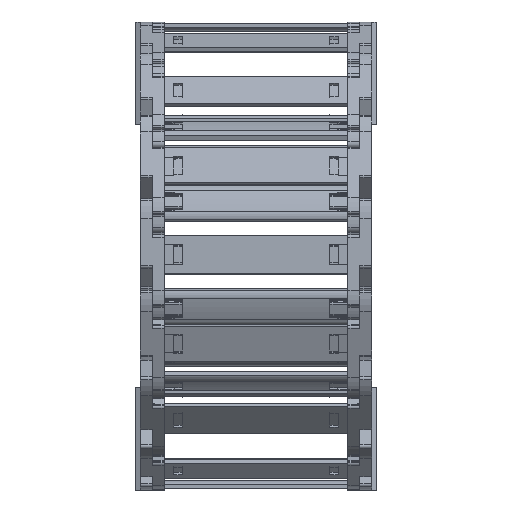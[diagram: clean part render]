
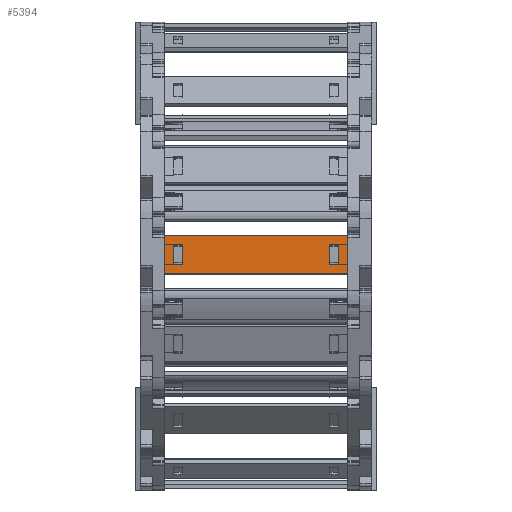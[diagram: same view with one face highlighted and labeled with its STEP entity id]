
A CAD part, left-side view. The second image highlights one B-rep face of the part: STEP entity #5394.
In plain terms, the highlighted planar face has unit normal (-1, 0, 0.007) as drawn and (0, 1, 0) by its records, which use the part's own axes.
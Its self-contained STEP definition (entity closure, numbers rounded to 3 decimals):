
#4814=DIRECTION('',(0.,0.,1.));
#4815=VECTOR('',#4814,15.8);
#4816=CARTESIAN_POINT('',(62.24,1.5,-7.9));
#4817=LINE('',#4816,#4815);
#4818=DIRECTION('',(-1.,0.,0.));
#4819=VECTOR('',#4818,77.);
#4820=CARTESIAN_POINT('',(62.24,1.5,7.9));
#4821=LINE('',#4820,#4819);
#4822=DIRECTION('',(0.,0.,-1.));
#4823=VECTOR('',#4822,15.8);
#4824=CARTESIAN_POINT('',(-14.76,1.5,7.9));
#4825=LINE('',#4824,#4823);
#4826=DIRECTION('',(1.,0.,0.));
#4827=VECTOR('',#4826,3.648);
#4828=CARTESIAN_POINT('',(54.622,1.5,4.075));
#4829=LINE('',#4828,#4827);
#4830=DIRECTION('',(0.,0.,-1.));
#4831=VECTOR('',#4830,8.15);
#4832=CARTESIAN_POINT('',(58.27,1.5,4.075));
#4833=LINE('',#4832,#4831);
#4834=DIRECTION('',(-1.,0.,0.));
#4835=VECTOR('',#4834,3.648);
#4836=CARTESIAN_POINT('',(58.27,1.5,-4.075));
#4837=LINE('',#4836,#4835);
#4838=DIRECTION('',(0.,0.,-1.));
#4839=VECTOR('',#4838,8.15);
#4840=CARTESIAN_POINT('',(-7.142,1.5,4.075));
#4841=LINE('',#4840,#4839);
#4842=DIRECTION('',(-1.,0.,0.));
#4843=VECTOR('',#4842,3.648);
#4844=CARTESIAN_POINT('',(-7.142,1.5,-4.075));
#4845=LINE('',#4844,#4843);
#4846=DIRECTION('',(0.,0.,1.));
#4847=VECTOR('',#4846,8.15);
#4848=CARTESIAN_POINT('',(-10.79,1.5,-4.075));
#4849=LINE('',#4848,#4847);
#4850=DIRECTION('',(1.,0.,0.));
#4851=VECTOR('',#4850,3.648);
#4852=CARTESIAN_POINT('',(-10.79,1.5,4.075));
#4853=LINE('',#4852,#4851);
#4858=DIRECTION('',(-1.,0.,0.));
#4859=VECTOR('',#4858,77.);
#4860=CARTESIAN_POINT('',(62.24,1.5,-7.9));
#4861=LINE('',#4860,#4859);
#4979=DIRECTION('',(0.,0.,-1.));
#4980=VECTOR('',#4979,8.15);
#4981=CARTESIAN_POINT('',(54.622,1.5,4.075));
#4982=LINE('',#4981,#4980);
#5164=CARTESIAN_POINT('',(58.27,1.5,4.075));
#5165=VERTEX_POINT('',#5164);
#5166=CARTESIAN_POINT('',(54.622,1.5,4.075));
#5167=VERTEX_POINT('',#5166);
#5208=CARTESIAN_POINT('',(54.622,1.5,-4.075));
#5209=VERTEX_POINT('',#5208);
#5210=CARTESIAN_POINT('',(58.27,1.5,-4.075));
#5211=VERTEX_POINT('',#5210);
#5212=CARTESIAN_POINT('',(62.24,1.5,7.9));
#5214=VERTEX_POINT('',#5212);
#5216=CARTESIAN_POINT('',(62.24,1.5,-7.9));
#5217=VERTEX_POINT('',#5216);
#5240=CARTESIAN_POINT('',(-7.142,1.5,4.075));
#5241=CARTESIAN_POINT('',(-7.142,1.5,-4.075));
#5242=VERTEX_POINT('',#5240);
#5243=VERTEX_POINT('',#5241);
#5244=CARTESIAN_POINT('',(-10.79,1.5,-4.075));
#5245=VERTEX_POINT('',#5244);
#5246=CARTESIAN_POINT('',(-10.79,1.5,4.075));
#5247=VERTEX_POINT('',#5246);
#5248=CARTESIAN_POINT('',(-14.76,1.5,7.9));
#5249=VERTEX_POINT('',#5248);
#5252=CARTESIAN_POINT('',(-14.76,1.5,-7.9));
#5253=VERTEX_POINT('',#5252);
#5363=CARTESIAN_POINT('',(93.98,1.5,10.061));
#5364=DIRECTION('',(0.,-1.,0.));
#5365=DIRECTION('',(0.,0.,-1.));
#5366=AXIS2_PLACEMENT_3D('',#5363,#5364,#5365);
#5367=PLANE('',#5366);
#5368=ORIENTED_EDGE('',*,*,#5302,.T.);
#5369=ORIENTED_EDGE('',*,*,#5328,.T.);
#5370=ORIENTED_EDGE('',*,*,#5341,.T.);
#5372=ORIENTED_EDGE('',*,*,#5371,.F.);
#5373=EDGE_LOOP('',(#5368,#5369,#5370,#5372));
#5374=FACE_OUTER_BOUND('',#5373,.F.);
#5376=ORIENTED_EDGE('',*,*,#5375,.F.);
#5377=ORIENTED_EDGE('',*,*,#5265,.T.);
#5379=ORIENTED_EDGE('',*,*,#5378,.T.);
#5381=ORIENTED_EDGE('',*,*,#5380,.T.);
#5382=EDGE_LOOP('',(#5376,#5377,#5379,#5381));
#5383=FACE_BOUND('',#5382,.F.);
#5385=ORIENTED_EDGE('',*,*,#5384,.T.);
#5387=ORIENTED_EDGE('',*,*,#5386,.T.);
#5389=ORIENTED_EDGE('',*,*,#5388,.T.);
#5391=ORIENTED_EDGE('',*,*,#5390,.T.);
#5392=EDGE_LOOP('',(#5385,#5387,#5389,#5391));
#5393=FACE_BOUND('',#5392,.F.);
#5394=ADVANCED_FACE('',(#5374,#5383,#5393),#5367,.F.);
#5265=EDGE_CURVE('',#5167,#5165,#4829,.T.);
#5302=EDGE_CURVE('',#5217,#5214,#4817,.T.);
#5328=EDGE_CURVE('',#5214,#5249,#4821,.T.);
#5341=EDGE_CURVE('',#5249,#5253,#4825,.T.);
#5371=EDGE_CURVE('',#5217,#5253,#4861,.T.);
#5375=EDGE_CURVE('',#5167,#5209,#4982,.T.);
#5378=EDGE_CURVE('',#5165,#5211,#4833,.T.);
#5380=EDGE_CURVE('',#5211,#5209,#4837,.T.);
#5384=EDGE_CURVE('',#5242,#5243,#4841,.T.);
#5386=EDGE_CURVE('',#5243,#5245,#4845,.T.);
#5388=EDGE_CURVE('',#5245,#5247,#4849,.T.);
#5390=EDGE_CURVE('',#5247,#5242,#4853,.T.);
